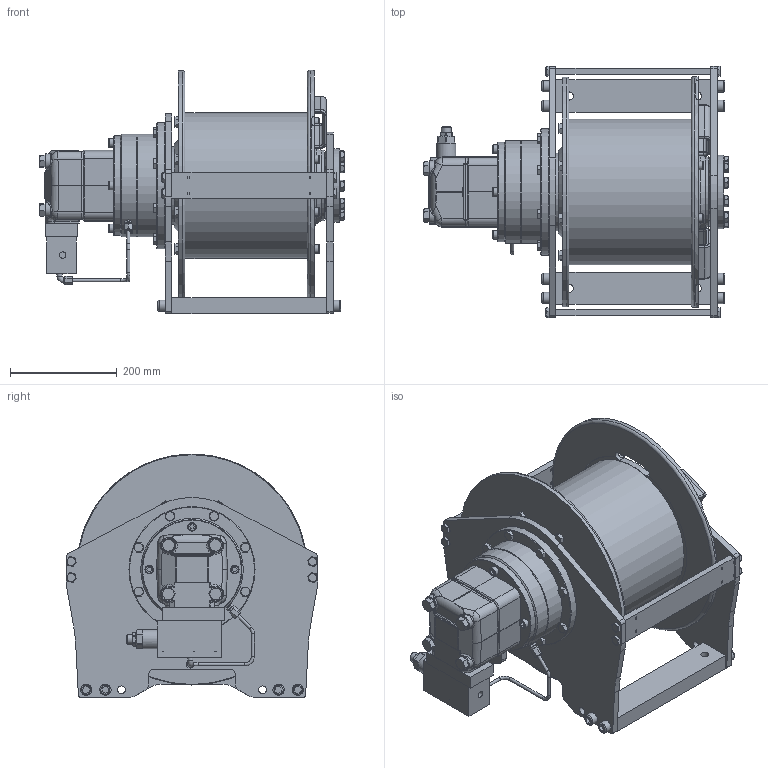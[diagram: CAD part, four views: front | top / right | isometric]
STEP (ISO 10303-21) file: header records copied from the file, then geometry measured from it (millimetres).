
FILE_DESCRIPTION( ( 'Unknown' ), '1' );
FILE_NAME( 'C:/Users/s.caputo/Desktop/Nuova cartella/ASSIEME_SE20-3.stp', 'Unknown', ( 'Unknown' ), ( 'Unknown' ), 'PSStep 17.0.49', 'Unknown', ' ' );
FILE_SCHEMA( ( 'AUTOMOTIVE_DESIGN { 1 0 10303 214 1 1 1 1 }' ) );
Length unit declared in the file: millimetre
Products named in the file (81): Assem1; __2714__55; __2742__57; __2756__58; __2770__59; __2784__60; __2798__61; __2812__62; BREP_8; BREP_9; BREP_10; BREP_11; BREP_12; BREP_13; BREP_14; BREP_15; BREP_16; __2574__45-746; __2574__45-747; __2574__45-748; __2574__45-749; __2574__45-750; __2574__45-751; __2574__45-752; __2574__45-753; __2574__45-754; __2574__45-755; BREP_27; BREP_28; __2070__9; __2182__17; __2490__39; __2504__40; __2518__41; __2532__42; __2056__8; __2434__35; __2448__36; __2462__37; __2476__38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
Assembly tree (80 placements, depth 2):
  Assem1
    __2714__55
    __2742__57
    __2756__58
    __2770__59
    __2784__60
    __2798__61
    __2812__62
    BREP_8
    BREP_9
    BREP_10
    BREP_11
    BREP_12
    BREP_13
    BREP_14
    BREP_15
    BREP_16
    __2574__45-746
    __2574__45-747
    __2574__45-748
    __2574__45-749
    __2574__45-750
    __2574__45-751
    __2574__45-752
    __2574__45-753
    __2574__45-754
    __2574__45-755
    BREP_27
    BREP_28
    __2070__9
    __2182__17
    __2490__39
    __2504__40
    __2518__41
    __2532__42
    __2056__8
    __2434__35
    __2448__36
    __2462__37
    __2476__38
    BREP_40
    BREP_41
    BREP_42
    BREP_43
    BREP_44
    BREP_45
    BREP_46
    BREP_47
    BREP_48
    BREP_49
    BREP_50
    BREP_51
    BREP_52
    BREP_53
    BREP_54
    BREP_55
    BREP_56
    BREP_57
    BREP_58
    BREP_59
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Bounding box: 569.7 x 470.54 x 456 mm (x, y, z)
Volume: 28830652.6 mm3; surface area: 2199048.9 mm2
Topology: 80 solids, 80 shells, 1684 faces, 3970 edges, 2606 vertices
Faces by surface type: plane 891, cylinder 425, cone 156, torus 111, bspline 77, sphere 24
Full cylindrical faces by diameter (mm): 5 x1, 6 x5, 6.781 x1, 8 x3, 9.5 x1, 10 x73, 10.5 x38, 10.666 x1, 12 x31, 14 x16, 14.5 x12, 15 x4, 16 x18, 17 x10, 18 x6, 18.275 x1, 20 x1, 21 x8, 36.152 x1, 85 x1, 90 x1, 100 x1, 110 x2, 114 x1, 125 x1, 132.005 x1, 137.5 x1, 145.005 x1, 186 x1, 192 x2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
Entity records: 95314 total; most frequent: CARTESIAN_POINT 44822, DIRECTION 7510, ORIENTED_EDGE 6604, EDGE_CURVE 3302, AXIS2_PLACEMENT_3D 2983, EDGE_LOOP 2420, VERTEX_POINT 2344, FACE_OUTER_BOUND 2005
